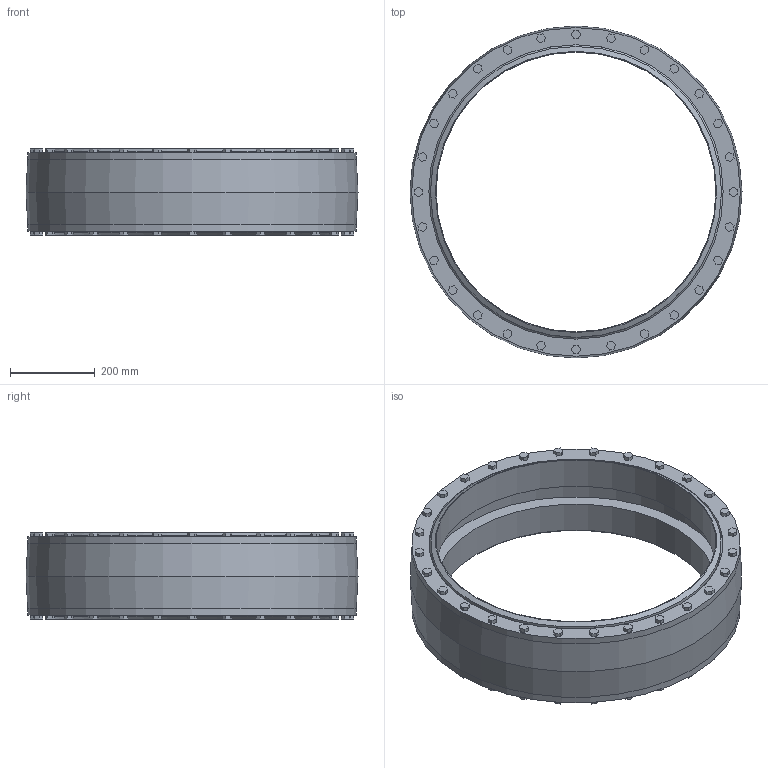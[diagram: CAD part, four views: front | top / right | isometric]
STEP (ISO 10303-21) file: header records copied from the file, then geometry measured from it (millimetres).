
FILE_DESCRIPTION(/* description */ ('VIC EXPANSION JOINT COUPLING 152-A','CAx-IF Rec.Pracs.---Representation and Presentation of Product Manufacturing Information (PMI)---4.0---2014-10-13'),/* implementation_level */ '2;1');
FILE_NAME(/* name */ 'C:\Users\kkamble\AppData\Roaming\Autodesk\ApplicationPlugins\Back Up\Victaulic_Vic-Ring_Coupling Expansion Joint_Style 152A (OGR)\Victaulic_Vic-Ring_Coupling Expansion Joint_Style 152A (OGR)_27 (27).stp',/* time_stamp */ '2020-09-10T11:34:26+05:00',/* author */ ('jheald'),/* organization */ ('Victaulic'),/* preprocessor_version */ 'ST-DEVELOPER v17.2',/* originating_system */ 'Autodesk Inventor 2019',/* authorisation */ '');
FILE_SCHEMA (('AP242_MANAGED_MODEL_BASED_3D_ENGINEERING_MIM_LF { 1 0 10303 442 1 1 4 }'));
Length unit declared in the file: inch
Products named in the file (1): 152A-27.0
Bounding box: 782.73 x 782.73 x 203.2 mm (x, y, z)
Volume: 20311766.7 mm3; surface area: 2036961.6 mm2
Topology: 1 solids, 1 shells, 429 faces, 1107 edges, 748 vertices
Faces by surface type: plane 406, cylinder 15, cone 6, torus 2
Full cylindrical faces by diameter (mm): 659.892 x2, 685.8 x2, 693.928 x2, 700.024 x2, 720.852 x4, 723.9 x1, 774.7 x2
Entity records: 13480 total; most frequent: CARTESIAN_POINT 2302, ORIENTED_EDGE 2214, DIRECTION 2071, EDGE_CURVE 1107, LINE 1029, VECTOR 1029, VERTEX_POINT 748, AXIS2_PLACEMENT_3D 521
